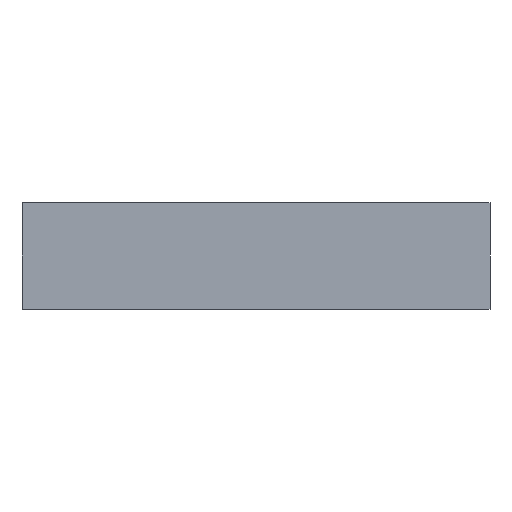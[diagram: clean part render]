
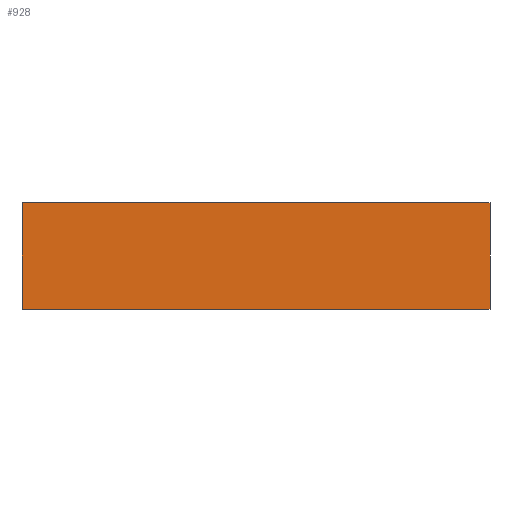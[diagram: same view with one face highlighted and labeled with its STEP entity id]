
A CAD part, front view. The second image highlights one B-rep face of the part: STEP entity #928.
In plain terms, the highlighted planar face has unit normal (0, -1, 0).
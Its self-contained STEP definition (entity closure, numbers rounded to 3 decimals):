
#151=VERTEX_POINT('',#1458);
#152=VERTEX_POINT('',#1460);
#162=VERTEX_POINT('',#1484);
#163=VERTEX_POINT('',#1486);
#232=VECTOR('',#1110,1.);
#244=VECTOR('',#1127,1.);
#265=VECTOR('',#1259,1.);
#266=VECTOR('',#1261,1.);
#303=LINE('',#1459,#232);
#315=LINE('',#1485,#244);
#336=LINE('',#1635,#265);
#337=LINE('',#1637,#266);
#391=EDGE_CURVE('',#152,#151,#303,.T.);
#404=EDGE_CURVE('',#162,#163,#315,.T.);
#458=EDGE_CURVE('',#162,#152,#336,.T.);
#459=EDGE_CURVE('',#163,#151,#337,.T.);
#684=ORIENTED_EDGE('',*,*,#391,.T.);
#685=ORIENTED_EDGE('',*,*,#459,.F.);
#686=ORIENTED_EDGE('',*,*,#404,.F.);
#687=ORIENTED_EDGE('',*,*,#458,.T.);
#786=EDGE_LOOP('',(#684,#685,#686,#687));
#870=FACE_BOUND('',#786,.T.);
#928=ADVANCED_FACE('',(#870),#1664,.T.);
#1027=AXIS2_PLACEMENT_3D('',#1636,#1260,$);
#1110=DIRECTION('',(-1.,0.,0.));
#1127=DIRECTION('',(-1.,0.,0.));
#1259=DIRECTION('',(0.,0.,1.));
#1260=DIRECTION('',(0.,-1.,0.));
#1261=DIRECTION('',(0.,0.,1.));
#1458=CARTESIAN_POINT('',(-24.127,30.195,25.5));
#1459=CARTESIAN_POINT('',(22.03,30.195,25.5));
#1460=CARTESIAN_POINT('',(22.03,30.195,25.5));
#1484=CARTESIAN_POINT('',(22.03,30.195,15.));
#1485=CARTESIAN_POINT('',(22.03,30.195,15.));
#1486=CARTESIAN_POINT('',(-24.127,30.195,15.));
#1635=CARTESIAN_POINT('',(22.03,30.195,15.));
#1636=CARTESIAN_POINT('',(-1.048,30.195,15.));
#1637=CARTESIAN_POINT('',(-24.127,30.195,15.));
#1664=PLANE('',#1027);
